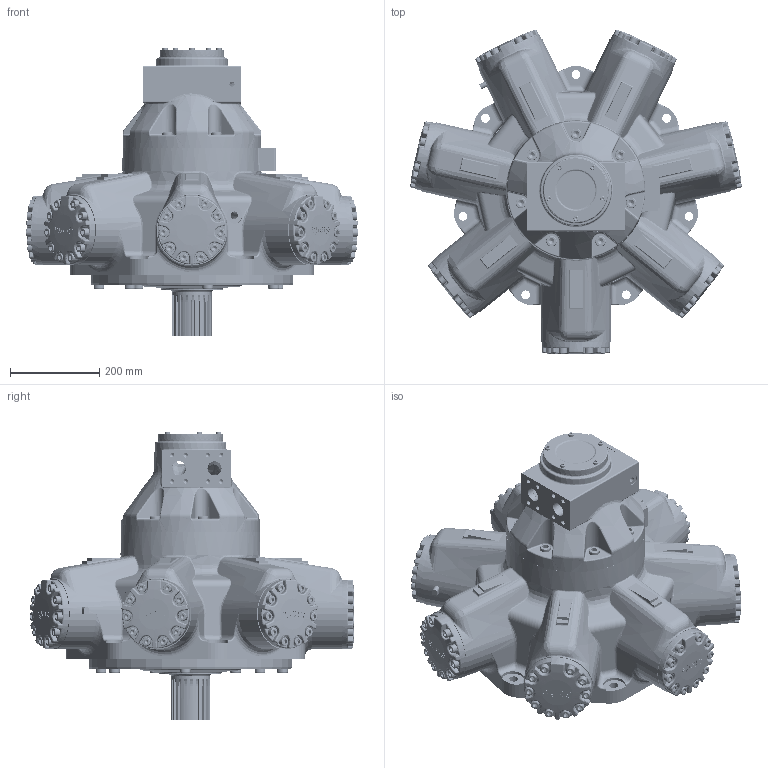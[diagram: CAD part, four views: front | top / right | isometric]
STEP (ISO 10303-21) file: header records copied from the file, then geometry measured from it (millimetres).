
FILE_DESCRIPTION(/* description */ (''),/* implementation_level */ '2;1');
FILE_NAME(/* name */ 'J:\3D Step files\Approved for WEB\Staffa\HPC325 S3 TP4 X 72.stp',/* time_stamp */ '2015-09-08T11:17:07+01:00',/* author */ ('mnorman'),/* organization */ (''),/* preprocessor_version */ 'ST-DEVELOPER v16.1',/* originating_system */ 'Autodesk Inventor 2016',/* authorisation */ '');
FILE_SCHEMA (('AUTOMOTIVE_DESIGN { 1 0 10303 214 3 1 1 }'));
Length unit declared in the file: millimetre
Products named in the file (1): HPC325 S3 TP4 X 72
Bounding box: 746.03 x 729.78 x 648.78 mm (x, y, z)
Volume: 47719379.1 mm3; surface area: 3549243.6 mm2
Topology: 2 solids, 109 shells, 5302 faces, 12697 edges, 7917 vertices
Faces by surface type: plane 2014, cylinder 1145, bspline 1095, cone 482, torus 405, sphere 161
Full cylindrical faces by diameter (mm): 3 x2, 6 x2, 7.938 x5, 8.334 x5, 10.109 x16, 11.328 x70, 11.455 x2, 11.913 x5, 12.7 x75, 13.5 x70, 14.351 x9, 15.875 x14, 16.272 x7, 16.669 x14, 17.323 x4, 19.05 x70, 20 x7, 20.6 x70, 22.225 x14, 23.825 x14, 25 x21, 25.4 x16, 27.661 x14, 28.575 x7, 31.75 x4, 38.1 x3, 38.176 x14, 64.643 x1, 65.1 x1, 79.375 x1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
Entity records: 179912 total; most frequent: CARTESIAN_POINT 67337, ORIENTED_EDGE 22054, DIRECTION 19792, EDGE_CURVE 11027, AXIS2_PLACEMENT_3D 7915, VERTEX_POINT 7485, EDGE_LOOP 6958, FACE_OUTER_BOUND 5302
